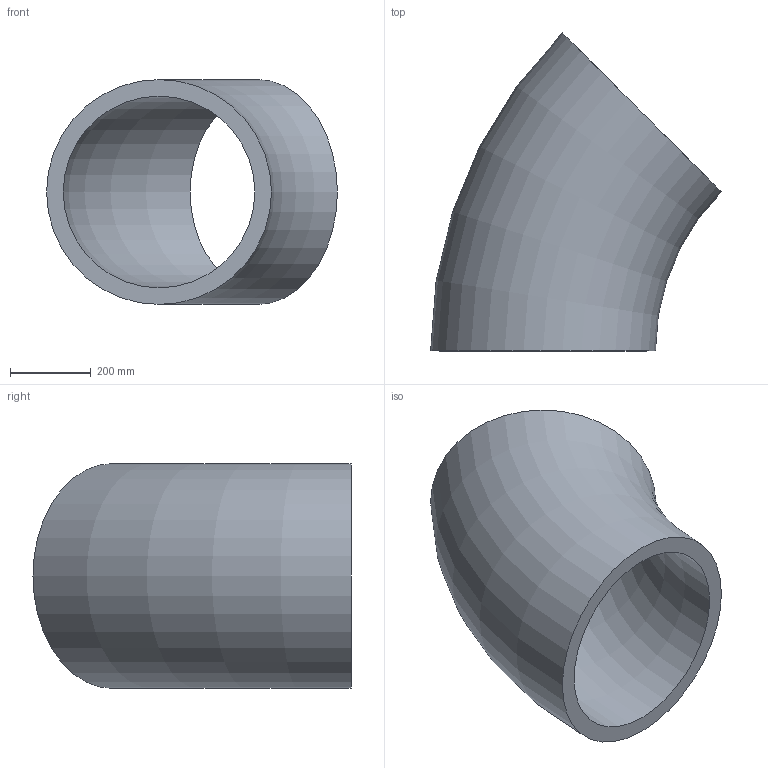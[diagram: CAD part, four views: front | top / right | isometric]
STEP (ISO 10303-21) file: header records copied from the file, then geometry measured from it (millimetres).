
FILE_DESCRIPTION(/* description */ (''),/* implementation_level */ '2;1');
FILE_NAME(/* name */ 'C:\Users\D\Documents\Inventor\HP\JIS\配管\エルボ ロング 45°\Sch120\Elbow45-long-550A-Sch120.stp',/* time_stamp */ '2022-06-08T17:04:40+09:00',/* author */ ('D'),/* organization */ (''),/* preprocessor_version */ 'ST-DEVELOPER v18',/* originating_system */ 'Autodesk Inventor 2020',/* authorisation */ '');
FILE_SCHEMA (('AUTOMOTIVE_DESIGN { 1 0 10303 214 3 1 1 }'));
Length unit declared in the file: millimetre
Products named in the file (1): Elbow-long-90-15A-SGP
Bounding box: 722.47 x 790.26 x 558.8 mm (x, y, z)
Volume: 44202600.1 mm3; surface area: 2274850.7 mm2
Topology: 1 solids, 1 shells, 4 faces, 10 edges, 8 vertices
Faces by surface type: torus 2, plane 2
Entity records: 181 total; most frequent: DIRECTION 30, CARTESIAN_POINT 23, ORIENTED_EDGE 20, AXIS2_PLACEMENT_3D 15, CIRCLE 10, EDGE_CURVE 10, VERTEX_POINT 8, EDGE_LOOP 6
